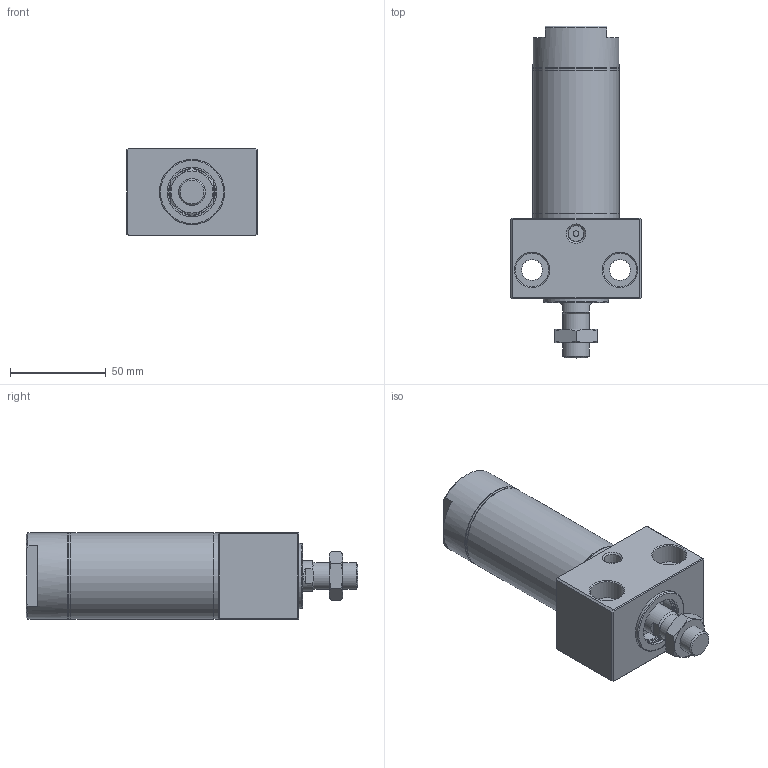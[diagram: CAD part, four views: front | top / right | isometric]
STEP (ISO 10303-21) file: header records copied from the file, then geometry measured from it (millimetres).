
FILE_DESCRIPTION((''),'2;1');
FILE_NAME('I:\3D電子目錄\氣缸\DBS\DBS\DBS40x25.stp','2007-10-08T08:48:43',('Administrator'),(''),'Autodesk Inventor 2008','Autodesk Inventor 2008','');
FILE_SCHEMA(('AUTOMOTIVE_DESIGN { 1 0 10303 214 1 1 1 1 }'));
Length unit declared in the file: millimetre
Products named in the file (1): DBS40x25
Bounding box: 68 x 173.6 x 46 mm (x, y, z)
Volume: 204619.5 mm3; surface area: 62653.5 mm2
Topology: 6 solids, 6 shells, 166 faces, 323 edges, 195 vertices
Faces by surface type: plane 74, cone 41, cylinder 35, bspline 13, torus 3
Full cylindrical faces by diameter (mm): 3 x1, 10.5 x1, 12 x1, 13 x1, 14 x2, 16 x1, 16.5 x1, 18 x1, 21 x2, 24 x3, 26 x2, 27.5 x1, 28 x2, 34 x1, 38 x2, 38.5 x2, 40 x1, 42.2 x6, 45 x4
Entity records: 3958 total; most frequent: CARTESIAN_POINT 865, DIRECTION 652, ORIENTED_EDGE 488, AXIS2_PLACEMENT_3D 287, EDGE_LOOP 280, EDGE_CURVE 244, VERTEX_POINT 188, FACE_OUTER_BOUND 166
